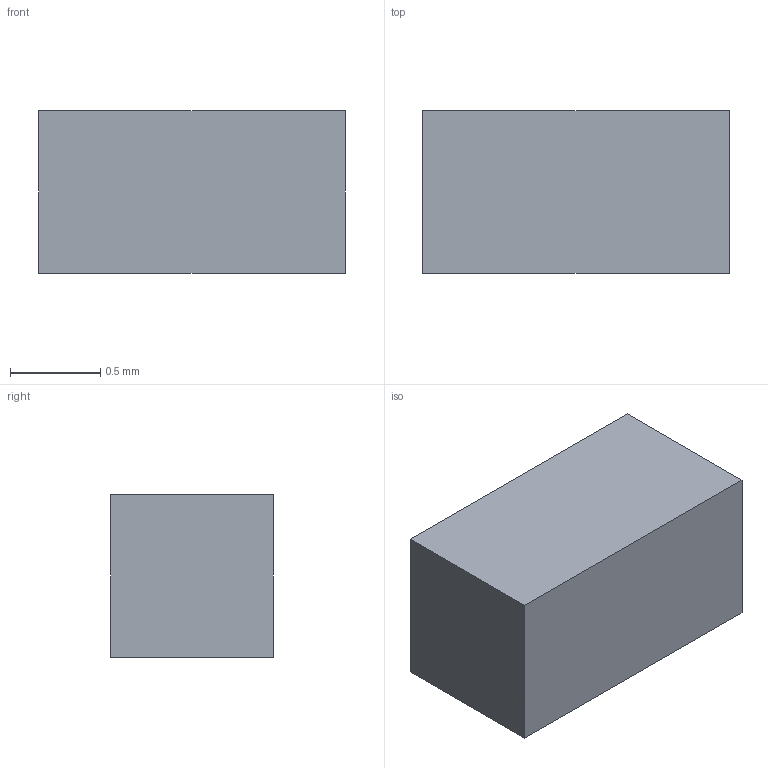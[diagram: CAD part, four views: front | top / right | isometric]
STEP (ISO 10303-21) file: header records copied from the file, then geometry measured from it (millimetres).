
FILE_DESCRIPTION(('Open CASCADE Model'),'2;1');
FILE_NAME('Open CASCADE Shape Model','2026-09-17T14:57:39',('Author'),( 'Open CASCADE'),'Open CASCADE STEP processor 7.8','Open CASCADE 7.8' ,'Unknown');
FILE_SCHEMA(('AUTOMOTIVE_DESIGN { 1 0 10303 214 1 1 1 1 }'));
Length unit declared in the file: millimetre
Products named in the file (1): Open CASCADE STEP translator 7.8 8
Bounding box: 1.7 x 0.9 x 0.9 mm (x, y, z)
Volume: 1.4 mm3; surface area: 7.7 mm2
Topology: 1 solids, 1 shells, 6 faces, 12 edges, 8 vertices
Faces by surface type: plane 6
Entity records: 322 total; most frequent: CARTESIAN_POINT 51, DIRECTION 50, LINE 36, VECTOR 36, ORIENTED_EDGE 24, PCURVE 24, DEFINITIONAL_REPRESENTATION 24, EDGE_CURVE 12
